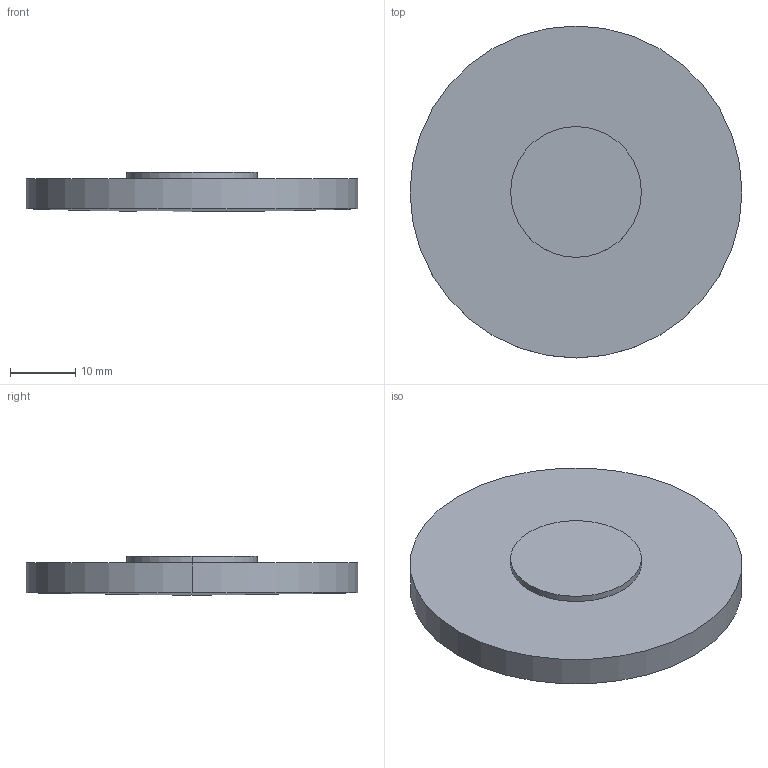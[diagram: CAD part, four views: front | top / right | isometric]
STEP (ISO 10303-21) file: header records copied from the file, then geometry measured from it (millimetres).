
FILE_DESCRIPTION(('STEP AP214'),'1');
FILE_NAME('LLF-51-2M.STEP','2020-03-09T17:41:28',(' '),(' '),'Spatial InterOp 3D',' ',' ');
FILE_SCHEMA(('AUTOMOTIVE_DESIGN { 1 0 10303 214 1 1 1 1 }'));
Length unit declared in the file: millimetre
Products named in the file (1): 1
Bounding box: 50.8 x 50.8 x 6 mm (x, y, z)
Volume: 10018 mm3; surface area: 5475.6 mm2
Topology: 2 solids, 2 shells, 9 faces, 16 edges, 9 vertices
Faces by surface type: cylinder 4, plane 3, sphere 2
Entity records: 229 total; most frequent: DIRECTION 46, CARTESIAN_POINT 34, ORIENTED_EDGE 28, AXIS2_PLACEMENT_3D 21, EDGE_CURVE 14, CIRCLE 10, ADVANCED_FACE 9, FACE_OUTER_BOUND 9
